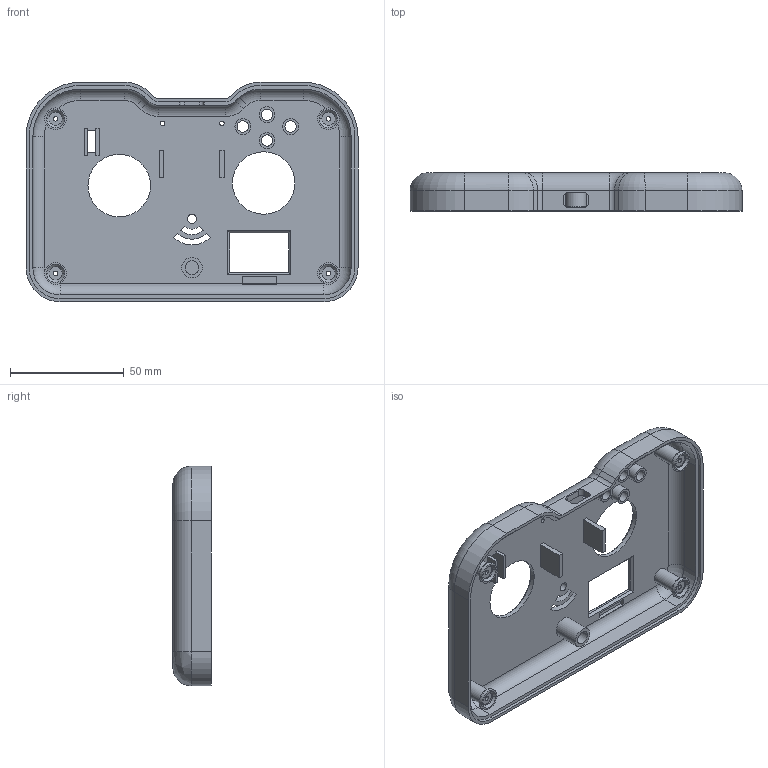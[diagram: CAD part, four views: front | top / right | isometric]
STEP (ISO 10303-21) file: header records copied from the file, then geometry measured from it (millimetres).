
FILE_DESCRIPTION((''),'2;1');
FILE_NAME('REMOTE-UPCASE','2026-04-22T',('Administrator'),(''),'PRO/ENGINEER BY PARAMETRIC TECHNOLOGY CORPORATION, 2013150','PRO/ENGINEER BY PARAMETRIC TECHNOLOGY CORPORATION, 2013150','');
FILE_SCHEMA(('CONFIG_CONTROL_DESIGN'));
Length unit declared in the file: millimetre
Products named in the file (1): REMOTE-UPCASE
Bounding box: 146 x 16.8 x 96.56 mm (x, y, z)
Volume: 50983.5 mm3; surface area: 40046.2 mm2
Topology: 1 solids, 1 shells, 575 faces, 1513 edges, 982 vertices
Faces by surface type: plane 340, cylinder 120, extrusion 71, cone 28, torus 14, bspline 2
Entity records: 18045 total; most frequent: CARTESIAN_POINT 3808, ORIENTED_EDGE 3026, DIRECTION 2702, EDGE_CURVE 1513, VECTOR 1158, LINE 1087, VERTEX_POINT 982, AXIS2_PLACEMENT_3D 772
